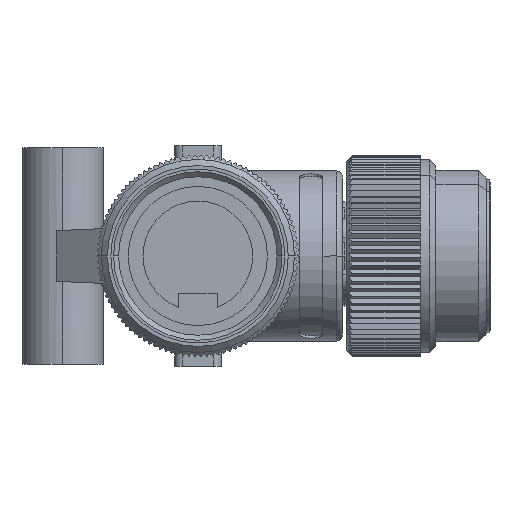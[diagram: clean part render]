
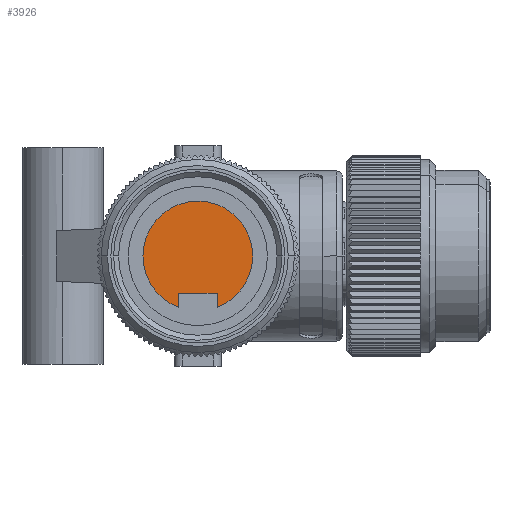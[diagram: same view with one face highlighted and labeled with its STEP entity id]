
A CAD part, left-side view. The second image highlights one B-rep face of the part: STEP entity #3926.
In plain terms, the highlighted planar face has unit normal (-1, 0, 0).
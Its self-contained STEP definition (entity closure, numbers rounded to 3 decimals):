
#1171 = CARTESIAN_POINT ( 'NONE',  ( -126.96, 16.314, 13.476 ) ) ;
#2167 = VERTEX_POINT ( 'NONE', #4100 ) ;
#2707 = DIRECTION ( 'NONE',  ( 0., -1., 0. ) ) ;
#3005 = CARTESIAN_POINT ( 'NONE',  ( -126.96, 22.364, 20.776 ) ) ;
#3393 = ORIENTED_EDGE ( 'NONE', *, *, #22628, .T. ) ;
#3849 = DIRECTION ( 'NONE',  ( 1., 0., 0. ) ) ;
#3926 = ADVANCED_FACE ( 'NONE', ( #34434 ), #19743, .T. ) ;
#4100 = CARTESIAN_POINT ( 'NONE',  ( -126.96, 21.314, 15.976 ) ) ;
#4474 = LINE ( 'NONE', #1171, #18026 ) ;
#5253 = DIRECTION ( 'NONE',  ( 1., 0., 0. ) ) ;
#6530 = EDGE_LOOP ( 'NONE', ( #3393, #27973, #39817, #38235, #25944, #17356 ) ) ;
#7932 = VERTEX_POINT ( 'NONE', #35217 ) ;
#9407 = CARTESIAN_POINT ( 'NONE',  ( -126.96, 22.364, 15.976 ) ) ;
#9994 = DIRECTION ( 'NONE',  ( -1., 0., 0. ) ) ;
#11176 = VERTEX_POINT ( 'NONE', #24099 ) ;
#12237 = CIRCLE ( 'NONE', #12484, 7.1 ) ;
#12484 = AXIS2_PLACEMENT_3D ( 'NONE', #35468, #16087, #38781 ) ;
#12989 = AXIS2_PLACEMENT_3D ( 'NONE', #3005, #9994, #32945 ) ;
#14883 = CARTESIAN_POINT ( 'NONE',  ( -126.96, 21.314, 14.131 ) ) ;
#16087 = DIRECTION ( 'NONE',  ( 1., 0., 0. ) ) ;
#17356 = ORIENTED_EDGE ( 'NONE', *, *, #22328, .T. ) ;
#18026 = VECTOR ( 'NONE', #40985, 1000. ) ;
#18079 = VERTEX_POINT ( 'NONE', #33653 ) ;
#18285 = VECTOR ( 'NONE', #30514, 1000. ) ;
#18891 = VERTEX_POINT ( 'NONE', #34271 ) ;
#19743 = PLANE ( 'NONE',  #12989 ) ;
#20876 = LINE ( 'NONE', #9407, #36013 ) ;
#21447 = EDGE_CURVE ( 'NONE', #18891, #11176, #39650, .T. ) ;
#21766 = EDGE_CURVE ( 'NONE', #39554, #18891, #12237, .T. ) ;
#22328 = EDGE_CURVE ( 'NONE', #2167, #7932, #20876, .T. ) ;
#22513 = EDGE_CURVE ( 'NONE', #39554, #2167, #24945, .T. ) ;
#22628 = EDGE_CURVE ( 'NONE', #7932, #18079, #4474, .T. ) ;
#22679 = EDGE_CURVE ( 'NONE', #11176, #18079, #30741, .T. ) ;
#23836 = AXIS2_PLACEMENT_3D ( 'NONE', #25296, #5253, #28559 ) ;
#23952 = CARTESIAN_POINT ( 'NONE',  ( -126.96, 18.814, 20.776 ) ) ;
#24099 = CARTESIAN_POINT ( 'NONE',  ( -126.96, 11.714, 20.776 ) ) ;
#24945 = LINE ( 'NONE', #33752, #18285 ) ;
#25296 = CARTESIAN_POINT ( 'NONE',  ( -126.96, 18.814, 20.776 ) ) ;
#25944 = ORIENTED_EDGE ( 'NONE', *, *, #22513, .T. ) ;
#27270 = DIRECTION ( 'NONE',  ( 0., 1., 0. ) ) ;
#27973 = ORIENTED_EDGE ( 'NONE', *, *, #22679, .F. ) ;
#28559 = DIRECTION ( 'NONE',  ( 0., 1., 0. ) ) ;
#30514 = DIRECTION ( 'NONE',  ( 0., 0., 1. ) ) ;
#30741 = CIRCLE ( 'NONE', #23836, 7.1 ) ;
#32945 = DIRECTION ( 'NONE',  ( 0., 0., 1. ) ) ;
#33653 = CARTESIAN_POINT ( 'NONE',  ( -126.96, 16.314, 14.131 ) ) ;
#33752 = CARTESIAN_POINT ( 'NONE',  ( -126.96, 21.314, 20.776 ) ) ;
#34271 = CARTESIAN_POINT ( 'NONE',  ( -126.96, 25.914, 20.776 ) ) ;
#34434 = FACE_OUTER_BOUND ( 'NONE', #6530, .T. ) ;
#35217 = CARTESIAN_POINT ( 'NONE',  ( -126.96, 16.314, 15.976 ) ) ;
#35468 = CARTESIAN_POINT ( 'NONE',  ( -126.96, 18.814, 20.776 ) ) ;
#36013 = VECTOR ( 'NONE', #2707, 1000. ) ;
#38235 = ORIENTED_EDGE ( 'NONE', *, *, #21766, .F. ) ;
#38781 = DIRECTION ( 'NONE',  ( 0., 1., 0. ) ) ;
#39554 = VERTEX_POINT ( 'NONE', #14883 ) ;
#39650 = CIRCLE ( 'NONE', #41143, 7.1 ) ;
#39817 = ORIENTED_EDGE ( 'NONE', *, *, #21447, .F. ) ;
#40985 = DIRECTION ( 'NONE',  ( 0., 0., -1. ) ) ;
#41143 = AXIS2_PLACEMENT_3D ( 'NONE', #23952, #3849, #27270 ) ;
